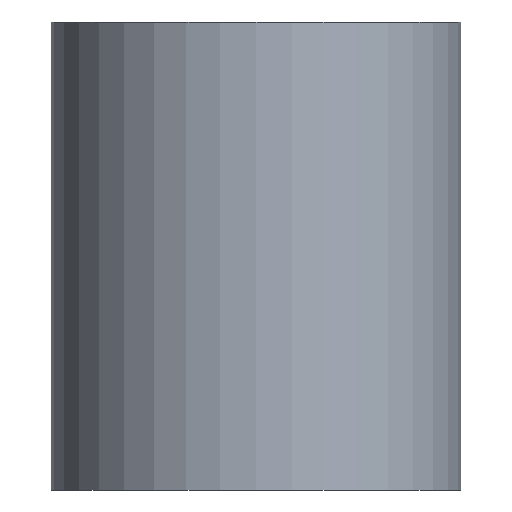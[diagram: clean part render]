
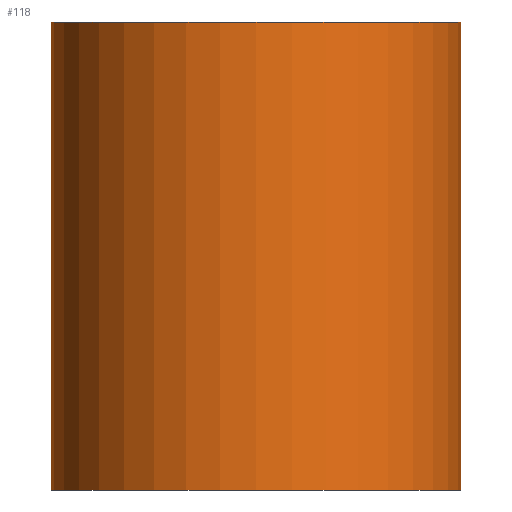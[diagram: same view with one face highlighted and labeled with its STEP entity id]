
A CAD part, front view. The second image highlights one B-rep face of the part: STEP entity #118.
In plain terms, the highlighted cylindrical face has radius 35 mm (diameter 70 mm), a partial arc.
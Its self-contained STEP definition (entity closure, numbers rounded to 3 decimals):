
#100=CYLINDRICAL_SURFACE('',#199,35.);
#104=FACE_OUTER_BOUND('',#132,.T.);
#107=LINE('',#257,#111);
#108=LINE('',#258,#112);
#111=VECTOR('',#228,1.);
#112=VECTOR('',#229,1.);
#118=ADVANCED_FACE('',(#104),#100,.T.);
#132=EDGE_LOOP('',(#153,#154,#155,#156));
#153=ORIENTED_EDGE('',*,*,#175,.F.);
#154=ORIENTED_EDGE('',*,*,#174,.T.);
#155=ORIENTED_EDGE('',*,*,#176,.T.);
#156=ORIENTED_EDGE('',*,*,#165,.F.);
#157=VERTEX_POINT('',#236);
#158=VERTEX_POINT('',#237);
#163=VERTEX_POINT('',#253);
#164=VERTEX_POINT('',#254);
#165=EDGE_CURVE('',#157,#158,#177,.T.);
#174=EDGE_CURVE('',#164,#163,#184,.T.);
#175=EDGE_CURVE('',#164,#157,#107,.T.);
#176=EDGE_CURVE('',#163,#158,#108,.T.);
#177=CIRCLE('',#186,35.);
#184=CIRCLE('',#196,35.);
#186=AXIS2_PLACEMENT_3D('',#235,#202,#203);
#196=AXIS2_PLACEMENT_3D('',#255,#224,#225);
#199=AXIS2_PLACEMENT_3D('',#260,#232,#233);
#202=DIRECTION('',(0.,0.,1.));
#203=DIRECTION('',(0.,1.,0.));
#224=DIRECTION('',(0.,0.,1.));
#225=DIRECTION('',(0.,1.,0.));
#228=DIRECTION('',(0.,0.,1.));
#229=DIRECTION('',(0.,0.,1.));
#232=DIRECTION('',(0.,0.,1.));
#233=DIRECTION('',(0.,-1.,0.));
#235=CARTESIAN_POINT('',(0.,0.,80.));
#236=CARTESIAN_POINT('',(-35.,0.,80.));
#237=CARTESIAN_POINT('',(35.,0.,80.));
#253=CARTESIAN_POINT('',(35.,0.,0.));
#254=CARTESIAN_POINT('',(-35.,0.,0.));
#255=CARTESIAN_POINT('',(0.,0.,0.));
#257=CARTESIAN_POINT('',(-35.,0.,80.));
#258=CARTESIAN_POINT('',(35.,0.,80.));
#260=CARTESIAN_POINT('',(0.,0.,0.));
